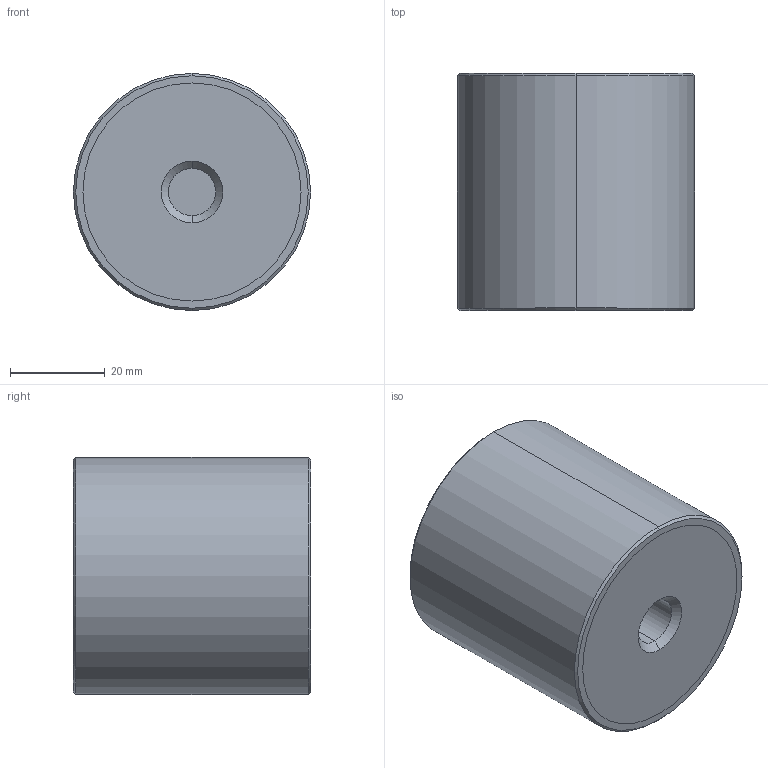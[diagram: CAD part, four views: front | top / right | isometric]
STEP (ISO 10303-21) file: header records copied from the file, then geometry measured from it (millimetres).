
FILE_DESCRIPTION (( 'STEP AP203' ), '1' );
FILE_NAME ('61080.W0503.step', '2018-07-16T20:45:20', ( '' ), ( '' ), 'SwSTEP 2.0', 'SolidWorks 2017', '' );
FILE_SCHEMA (( 'CONFIG_CONTROL_DESIGN' ));
Length unit declared in the file: millimetre
Products named in the file (4): Part3_61080.W0503; 61080.W0503; Part2_61080.W0503; Part1_61080.W0503
Assembly tree (3 placements, depth 2):
  61080.W0503
    Part1_61080.W0503
    Part2_61080.W0503
    Part3_61080.W0503
Bounding box: 50 x 50 x 50 mm (x, y, z)
Volume: 96487.2 mm3; surface area: 19467.8 mm2
Topology: 3 solids, 3 shells, 32 faces, 62 edges, 40 vertices
Faces by surface type: cylinder 14, plane 10, cone 8
Entity records: 1256 total; most frequent: DIRECTION 178, CARTESIAN_POINT 140, ORIENTED_EDGE 124, AXIS2_PLACEMENT_3D 78, EDGE_CURVE 62, EDGE_LOOP 40, VERTEX_POINT 40, CIRCLE 40
